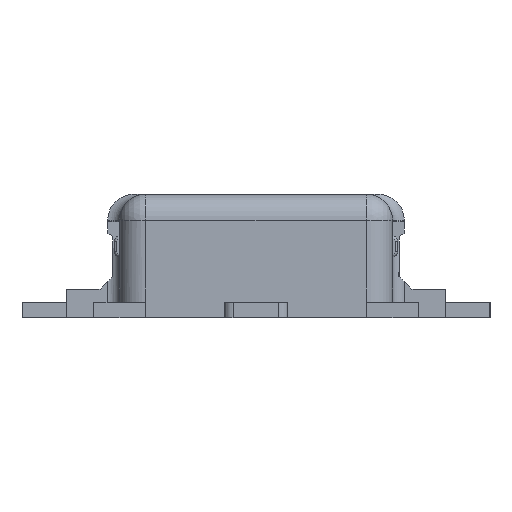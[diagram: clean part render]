
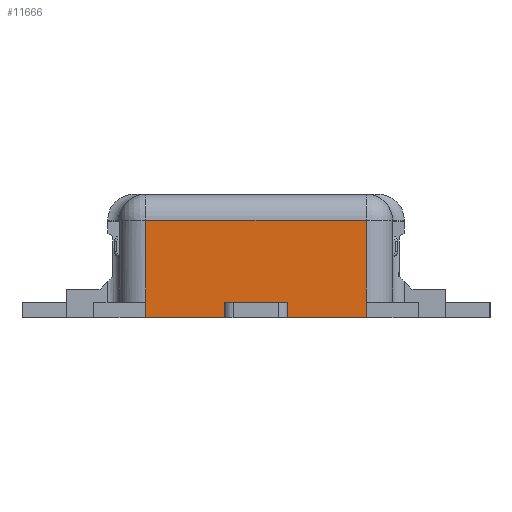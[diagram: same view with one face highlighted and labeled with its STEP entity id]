
A CAD part, left-side view. The second image highlights one B-rep face of the part: STEP entity #11666.
In plain terms, the highlighted planar face has unit normal (-1, 0, 0).
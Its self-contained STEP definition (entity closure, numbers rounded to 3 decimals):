
#11566=CARTESIAN_POINT('Vertex',(-9.73,0.425,0.06)) ;
#11573=CARTESIAN_POINT('Vertex',(-9.73,0.425,0.)) ;
#11576=CARTESIAN_POINT('Line Origine',(-9.73,0.425,0.03)) ;
#11588=CARTESIAN_POINT('Axis2P3D Location',(-9.73,-0.57,0.)) ;
#11593=CARTESIAN_POINT('Line Origine',(-9.73,-0.425,0.218)) ;
#11597=CARTESIAN_POINT('Vertex',(-9.73,-0.425,0.375)) ;
#11599=CARTESIAN_POINT('Vertex',(-9.73,-0.425,0.06)) ;
#11602=CARTESIAN_POINT('Line Origine',(-9.73,0.,0.375)) ;
#11606=CARTESIAN_POINT('Vertex',(-9.73,0.425,0.375)) ;
#11609=CARTESIAN_POINT('Line Origine',(-9.73,0.425,0.218)) ;
#11614=CARTESIAN_POINT('Line Origine',(-9.73,0.273,0.)) ;
#11618=CARTESIAN_POINT('Vertex',(-9.73,0.12,0.)) ;
#11621=CARTESIAN_POINT('Line Origine',(-9.73,0.12,0.03)) ;
#11625=CARTESIAN_POINT('Vertex',(-9.73,0.12,0.06)) ;
#11628=CARTESIAN_POINT('Line Origine',(-9.73,0.,0.06)) ;
#11632=CARTESIAN_POINT('Vertex',(-9.73,-0.12,0.06)) ;
#11635=CARTESIAN_POINT('Line Origine',(-9.73,-0.12,0.03)) ;
#11639=CARTESIAN_POINT('Vertex',(-9.73,-0.12,0.)) ;
#11642=CARTESIAN_POINT('Line Origine',(-9.73,-0.272,0.)) ;
#11646=CARTESIAN_POINT('Vertex',(-9.73,-0.425,0.)) ;
#11649=CARTESIAN_POINT('Line Origine',(-9.73,-0.425,0.03)) ;
#11577=DIRECTION('Vector Direction',(0.,0.,-1.)) ;
#11589=DIRECTION('Axis2P3D Direction',(1.,0.,0.)) ;
#11590=DIRECTION('Axis2P3D XDirection',(0.,1.,0.)) ;
#11594=DIRECTION('Vector Direction',(0.,0.,-1.)) ;
#11603=DIRECTION('Vector Direction',(0.,-1.,0.)) ;
#11610=DIRECTION('Vector Direction',(0.,0.,1.)) ;
#11615=DIRECTION('Vector Direction',(0.,-1.,0.)) ;
#11622=DIRECTION('Vector Direction',(0.,0.,-1.)) ;
#11629=DIRECTION('Vector Direction',(0.,1.,0.)) ;
#11636=DIRECTION('Vector Direction',(0.,0.,1.)) ;
#11643=DIRECTION('Vector Direction',(0.,-1.,0.)) ;
#11650=DIRECTION('Vector Direction',(0.,0.,-1.)) ;
#11591=AXIS2_PLACEMENT_3D('Plane Axis2P3D',#11588,#11589,#11590) ;
#11655=ORIENTED_EDGE('',*,*,#11601,.F.) ;
#11656=ORIENTED_EDGE('',*,*,#11608,.F.) ;
#11657=ORIENTED_EDGE('',*,*,#11613,.F.) ;
#11658=ORIENTED_EDGE('',*,*,#11580,.T.) ;
#11659=ORIENTED_EDGE('',*,*,#11620,.T.) ;
#11660=ORIENTED_EDGE('',*,*,#11627,.F.) ;
#11661=ORIENTED_EDGE('',*,*,#11634,.F.) ;
#11662=ORIENTED_EDGE('',*,*,#11641,.F.) ;
#11663=ORIENTED_EDGE('',*,*,#11648,.T.) ;
#11664=ORIENTED_EDGE('',*,*,#11653,.F.) ;
#11578=VECTOR('Line Direction',#11577,1.) ;
#11595=VECTOR('Line Direction',#11594,1.) ;
#11604=VECTOR('Line Direction',#11603,1.) ;
#11611=VECTOR('Line Direction',#11610,1.) ;
#11616=VECTOR('Line Direction',#11615,1.) ;
#11623=VECTOR('Line Direction',#11622,1.) ;
#11630=VECTOR('Line Direction',#11629,1.) ;
#11637=VECTOR('Line Direction',#11636,1.) ;
#11644=VECTOR('Line Direction',#11643,1.) ;
#11651=VECTOR('Line Direction',#11650,1.) ;
#11666=ADVANCED_FACE('MANIFOLD_SOLID_BREP #11608',(#11665),#11592,.F.) ;
#11580=EDGE_CURVE('',#11567,#11574,#11579,.T.) ;
#11601=EDGE_CURVE('',#11598,#11600,#11596,.T.) ;
#11608=EDGE_CURVE('',#11607,#11598,#11605,.T.) ;
#11613=EDGE_CURVE('',#11567,#11607,#11612,.T.) ;
#11620=EDGE_CURVE('',#11574,#11619,#11617,.T.) ;
#11627=EDGE_CURVE('',#11626,#11619,#11624,.T.) ;
#11634=EDGE_CURVE('',#11633,#11626,#11631,.T.) ;
#11641=EDGE_CURVE('',#11640,#11633,#11638,.T.) ;
#11648=EDGE_CURVE('',#11640,#11647,#11645,.T.) ;
#11653=EDGE_CURVE('',#11600,#11647,#11652,.T.) ;
#11654=EDGE_LOOP('',(#11655,#11656,#11657,#11658,#11659,#11660,#11661,#11662,#11663,#11664)) ;
#11665=FACE_OUTER_BOUND('',#11654,.T.) ;
#11579=LINE('Line',#11576,#11578) ;
#11596=LINE('Line',#11593,#11595) ;
#11605=LINE('Line',#11602,#11604) ;
#11612=LINE('Line',#11609,#11611) ;
#11617=LINE('Line',#11614,#11616) ;
#11624=LINE('Line',#11621,#11623) ;
#11631=LINE('Line',#11628,#11630) ;
#11638=LINE('Line',#11635,#11637) ;
#11645=LINE('Line',#11642,#11644) ;
#11652=LINE('Line',#11649,#11651) ;
#11592=PLANE('Plane',#11591) ;
#11567=VERTEX_POINT('',#11566) ;
#11574=VERTEX_POINT('',#11573) ;
#11598=VERTEX_POINT('',#11597) ;
#11600=VERTEX_POINT('',#11599) ;
#11607=VERTEX_POINT('',#11606) ;
#11619=VERTEX_POINT('',#11618) ;
#11626=VERTEX_POINT('',#11625) ;
#11633=VERTEX_POINT('',#11632) ;
#11640=VERTEX_POINT('',#11639) ;
#11647=VERTEX_POINT('',#11646) ;
